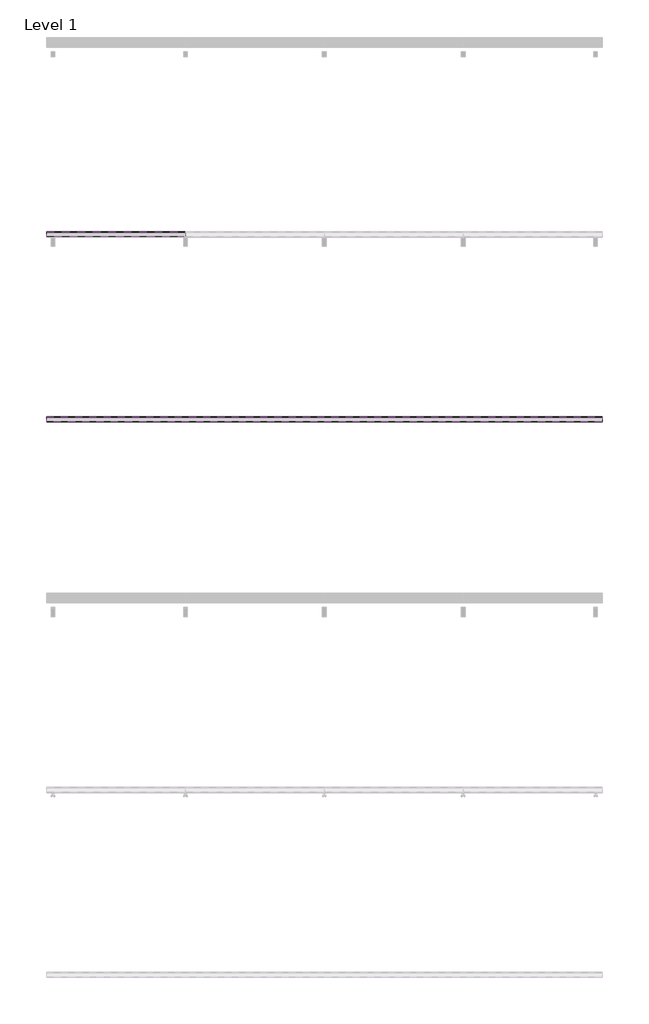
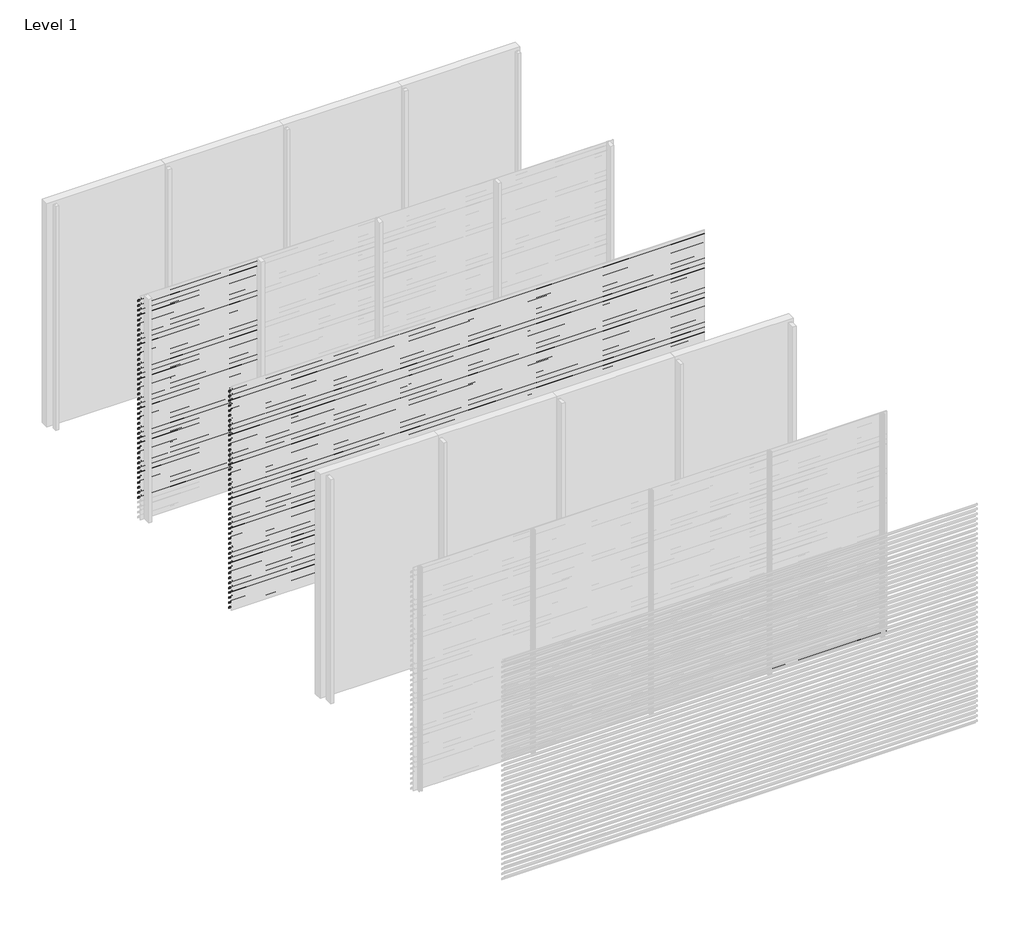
# One storey, part 8 of 25: 87 proxies.
"""IFC4 building model written with IfcOpenShell, lengths in millimetres."""

from ifc_helpers import new_model, si_unit, frame, origin, place, context, project, spatial, polyline, outline, extrude, element, save

model = new_model("IFC4")

# Units and contexts
model_context = context("Model", 3, world=origin())
ifc_project = project(units=[si_unit("LENGTHUNIT", "METRE", prefix="MILLI")], contexts=[model_context])

# Site, building, storey
site = spatial("IfcSite", under=ifc_project)
building = spatial("IfcBuilding", under=site)
storey = spatial("IfcBuildingStorey", under=building, Name="Level 1", Elevation=0.0)

# Proxies
placement = place(None, origin())
element("IfcBuildingElementProxy", 1, Name="Wall Sweeps", at=placement, inside=storey, context=model_context, shape_type="SweptSolid", body=[
    extrude(outline(polyline([(-35943.0, 2913.5), (-35943.0, 2893.5), (-35944.25, 2894.2216933), (-35944.25, 2912.7872415), (-35998.0, 2950.3158044), (-35998.0, 2970.0), (-35996.75, 2970.0), (-35996.75, 2951.0285629), (-35943.0, 2913.5)])), frame((0.0, 0.0, 0.0), z_axis=(1.0, 0.0, 0.0), x_axis=(0.0, 1.0, 0.0)), (0.0, 0.0, 1.0), 1500.0),
])
element("IfcBuildingElementProxy", 2, Name="Wall Sweeps", at=placement, inside=storey, context=model_context, shape_type="SweptSolid", body=[
    extrude(outline(polyline([(-35943.0, 2847.5), (-35943.0, 2827.5), (-35944.25, 2828.2216933), (-35944.25, 2846.7872415), (-35998.0, 2884.3158044), (-35998.0, 2904.0), (-35996.75, 2904.0), (-35996.75, 2885.0285629), (-35943.0, 2847.5)])), frame((0.0, 0.0, 0.0), z_axis=(1.0, 0.0, 0.0), x_axis=(0.0, 1.0, 0.0)), (0.0, 0.0, 1.0), 1500.0),
])
element("IfcBuildingElementProxy", 3, Name="Wall Sweeps", at=placement, inside=storey, context=model_context, shape_type="SweptSolid", body=[
    extrude(outline(polyline([(-35943.0, 2781.5), (-35943.0, 2761.5), (-35944.25, 2762.2216933), (-35944.25, 2780.7872415), (-35998.0, 2818.3158044), (-35998.0, 2838.0), (-35996.75, 2838.0), (-35996.75, 2819.0285629), (-35943.0, 2781.5)])), frame((0.0, 0.0, 0.0), z_axis=(1.0, 0.0, 0.0), x_axis=(0.0, 1.0, 0.0)), (0.0, 0.0, 1.0), 1500.0),
])
element("IfcBuildingElementProxy", 4, Name="Wall Sweeps", at=placement, inside=storey, context=model_context, shape_type="SweptSolid", body=[
    extrude(outline(polyline([(-35943.0, 2715.5), (-35943.0, 2695.5), (-35944.25, 2696.2216933), (-35944.25, 2714.7872415), (-35998.0, 2752.3158044), (-35998.0, 2772.0), (-35996.75, 2772.0), (-35996.75, 2753.0285629), (-35943.0, 2715.5)])), frame((0.0, 0.0, 0.0), z_axis=(1.0, 0.0, 0.0), x_axis=(0.0, 1.0, 0.0)), (0.0, 0.0, 1.0), 1500.0),
])
element("IfcBuildingElementProxy", 5, Name="Wall Sweeps", at=placement, inside=storey, context=model_context, shape_type="SweptSolid", body=[
    extrude(outline(polyline([(-35943.0, 2649.5), (-35943.0, 2629.5), (-35944.25, 2630.2216933), (-35944.25, 2648.7872415), (-35998.0, 2686.3158044), (-35998.0, 2706.0), (-35996.75, 2706.0), (-35996.75, 2687.0285629), (-35943.0, 2649.5)])), frame((0.0, 0.0, 0.0), z_axis=(1.0, 0.0, 0.0), x_axis=(0.0, 1.0, 0.0)), (0.0, 0.0, 1.0), 1500.0),
])
element("IfcBuildingElementProxy", 6, Name="Wall Sweeps", at=placement, inside=storey, context=model_context, shape_type="SweptSolid", body=[
    extrude(outline(polyline([(-35943.0, 2583.5), (-35943.0, 2563.5), (-35944.25, 2564.2216933), (-35944.25, 2582.7872415), (-35998.0, 2620.3158044), (-35998.0, 2640.0), (-35996.75, 2640.0), (-35996.75, 2621.0285629), (-35943.0, 2583.5)])), frame((0.0, 0.0, 0.0), z_axis=(1.0, 0.0, 0.0), x_axis=(0.0, 1.0, 0.0)), (0.0, 0.0, 1.0), 1500.0),
])
element("IfcBuildingElementProxy", 7, Name="Wall Sweeps", at=placement, inside=storey, context=model_context, shape_type="SweptSolid", body=[
    extrude(outline(polyline([(-35943.0, 2517.5), (-35943.0, 2497.5), (-35944.25, 2498.2216933), (-35944.25, 2516.7872415), (-35998.0, 2554.3158044), (-35998.0, 2574.0), (-35996.75, 2574.0), (-35996.75, 2555.0285629), (-35943.0, 2517.5)])), frame((0.0, 0.0, 0.0), z_axis=(1.0, 0.0, 0.0), x_axis=(0.0, 1.0, 0.0)), (0.0, 0.0, 1.0), 1500.0),
])
element("IfcBuildingElementProxy", 8, Name="Wall Sweeps", at=placement, inside=storey, context=model_context, shape_type="SweptSolid", body=[
    extrude(outline(polyline([(-35943.0, 2451.5), (-35943.0, 2431.5), (-35944.25, 2432.2216933), (-35944.25, 2450.7872415), (-35998.0, 2488.3158044), (-35998.0, 2508.0), (-35996.75, 2508.0), (-35996.75, 2489.0285629), (-35943.0, 2451.5)])), frame((0.0, 0.0, 0.0), z_axis=(1.0, 0.0, 0.0), x_axis=(0.0, 1.0, 0.0)), (0.0, 0.0, 1.0), 1500.0),
])
element("IfcBuildingElementProxy", 9, Name="Wall Sweeps", at=placement, inside=storey, context=model_context, shape_type="SweptSolid", body=[
    extrude(outline(polyline([(-35943.0, 2385.5), (-35943.0, 2365.5), (-35944.25, 2366.2216933), (-35944.25, 2384.7872415), (-35998.0, 2422.3158044), (-35998.0, 2442.0), (-35996.75, 2442.0), (-35996.75, 2423.0285629), (-35943.0, 2385.5)])), frame((0.0, 0.0, 0.0), z_axis=(1.0, 0.0, 0.0), x_axis=(0.0, 1.0, 0.0)), (0.0, 0.0, 1.0), 1500.0),
])
element("IfcBuildingElementProxy", 10, Name="Wall Sweeps", at=placement, inside=storey, context=model_context, shape_type="SweptSolid", body=[
    extrude(outline(polyline([(-35943.0, 2319.5), (-35943.0, 2299.5), (-35944.25, 2300.2216933), (-35944.25, 2318.7872415), (-35998.0, 2356.3158044), (-35998.0, 2376.0), (-35996.75, 2376.0), (-35996.75, 2357.0285629), (-35943.0, 2319.5)])), frame((0.0, 0.0, 0.0), z_axis=(1.0, 0.0, 0.0), x_axis=(0.0, 1.0, 0.0)), (0.0, 0.0, 1.0), 1500.0),
])
element("IfcBuildingElementProxy", 11, Name="Wall Sweeps", at=placement, inside=storey, context=model_context, shape_type="SweptSolid", body=[
    extrude(outline(polyline([(-35943.0, 2253.5), (-35943.0, 2233.5), (-35944.25, 2234.2216933), (-35944.25, 2252.7872415), (-35998.0, 2290.3158044), (-35998.0, 2310.0), (-35996.75, 2310.0), (-35996.75, 2291.0285629), (-35943.0, 2253.5)])), frame((0.0, 0.0, 0.0), z_axis=(1.0, 0.0, 0.0), x_axis=(0.0, 1.0, 0.0)), (0.0, 0.0, 1.0), 1500.0),
])
element("IfcBuildingElementProxy", 12, Name="Wall Sweeps", at=placement, inside=storey, context=model_context, shape_type="SweptSolid", body=[
    extrude(outline(polyline([(-35943.0, 2187.5), (-35943.0, 2167.5), (-35944.25, 2168.2216933), (-35944.25, 2186.7872415), (-35998.0, 2224.3158044), (-35998.0, 2244.0), (-35996.75, 2244.0), (-35996.75, 2225.0285629), (-35943.0, 2187.5)])), frame((0.0, 0.0, 0.0), z_axis=(1.0, 0.0, 0.0), x_axis=(0.0, 1.0, 0.0)), (0.0, 0.0, 1.0), 1500.0),
])
element("IfcBuildingElementProxy", 13, Name="Wall Sweeps", at=placement, inside=storey, context=model_context, shape_type="SweptSolid", body=[
    extrude(outline(polyline([(-35943.0, 2121.5), (-35943.0, 2101.5), (-35944.25, 2102.2216933), (-35944.25, 2120.7872415), (-35998.0, 2158.3158044), (-35998.0, 2178.0), (-35996.75, 2178.0), (-35996.75, 2159.0285629), (-35943.0, 2121.5)])), frame((0.0, 0.0, 0.0), z_axis=(1.0, 0.0, 0.0), x_axis=(0.0, 1.0, 0.0)), (0.0, 0.0, 1.0), 1500.0),
])
element("IfcBuildingElementProxy", 14, Name="Wall Sweeps", at=placement, inside=storey, context=model_context, shape_type="SweptSolid", body=[
    extrude(outline(polyline([(-35943.0, 2055.5), (-35943.0, 2035.5), (-35944.25, 2036.2216933), (-35944.25, 2054.7872415), (-35998.0, 2092.3158044), (-35998.0, 2112.0), (-35996.75, 2112.0), (-35996.75, 2093.0285629), (-35943.0, 2055.5)])), frame((0.0, 0.0, 0.0), z_axis=(1.0, 0.0, 0.0), x_axis=(0.0, 1.0, 0.0)), (0.0, 0.0, 1.0), 1500.0),
])
element("IfcBuildingElementProxy", 15, Name="Wall Sweeps", at=placement, inside=storey, context=model_context, shape_type="SweptSolid", body=[
    extrude(outline(polyline([(-35943.0, 1989.5), (-35943.0, 1969.5), (-35944.25, 1970.2216933), (-35944.25, 1988.7872415), (-35998.0, 2026.3158044), (-35998.0, 2046.0), (-35996.75, 2046.0), (-35996.75, 2027.0285629), (-35943.0, 1989.5)])), frame((0.0, 0.0, 0.0), z_axis=(1.0, 0.0, 0.0), x_axis=(0.0, 1.0, 0.0)), (0.0, 0.0, 1.0), 1500.0),
])
element("IfcBuildingElementProxy", 16, Name="Wall Sweeps", at=placement, inside=storey, context=model_context, shape_type="SweptSolid", body=[
    extrude(outline(polyline([(-35943.0, 1923.5), (-35943.0, 1903.5), (-35944.25, 1904.2216933), (-35944.25, 1922.7872415), (-35998.0, 1960.3158044), (-35998.0, 1980.0), (-35996.75, 1980.0), (-35996.75, 1961.0285629), (-35943.0, 1923.5)])), frame((0.0, 0.0, 0.0), z_axis=(1.0, 0.0, 0.0), x_axis=(0.0, 1.0, 0.0)), (0.0, 0.0, 1.0), 1500.0),
])
element("IfcBuildingElementProxy", 17, Name="Wall Sweeps", at=placement, inside=storey, context=model_context, shape_type="SweptSolid", body=[
    extrude(outline(polyline([(-35943.0, 1857.5), (-35943.0, 1837.5), (-35944.25, 1838.2216933), (-35944.25, 1856.7872415), (-35998.0, 1894.3158044), (-35998.0, 1914.0), (-35996.75, 1914.0), (-35996.75, 1895.0285629), (-35943.0, 1857.5)])), frame((0.0, 0.0, 0.0), z_axis=(1.0, 0.0, 0.0), x_axis=(0.0, 1.0, 0.0)), (0.0, 0.0, 1.0), 1500.0),
])
element("IfcBuildingElementProxy", 18, Name="Wall Sweeps", at=placement, inside=storey, context=model_context, shape_type="SweptSolid", body=[
    extrude(outline(polyline([(-35943.0, 1791.5), (-35943.0, 1771.5), (-35944.25, 1772.2216933), (-35944.25, 1790.7872415), (-35998.0, 1828.3158044), (-35998.0, 1848.0), (-35996.75, 1848.0), (-35996.75, 1829.0285629), (-35943.0, 1791.5)])), frame((0.0, 0.0, 0.0), z_axis=(1.0, 0.0, 0.0), x_axis=(0.0, 1.0, 0.0)), (0.0, 0.0, 1.0), 1500.0),
])
element("IfcBuildingElementProxy", 19, Name="Wall Sweeps", at=placement, inside=storey, context=model_context, shape_type="SweptSolid", body=[
    extrude(outline(polyline([(-35943.0, 1725.5), (-35943.0, 1705.5), (-35944.25, 1706.2216933), (-35944.25, 1724.7872415), (-35998.0, 1762.3158044), (-35998.0, 1782.0), (-35996.75, 1782.0), (-35996.75, 1763.0285629), (-35943.0, 1725.5)])), frame((0.0, 0.0, 0.0), z_axis=(1.0, 0.0, 0.0), x_axis=(0.0, 1.0, 0.0)), (0.0, 0.0, 1.0), 1500.0),
])
element("IfcBuildingElementProxy", 20, Name="Wall Sweeps", at=placement, inside=storey, context=model_context, shape_type="SweptSolid", body=[
    extrude(outline(polyline([(-35943.0, 1659.5), (-35943.0, 1639.5), (-35944.25, 1640.2216933), (-35944.25, 1658.7872415), (-35998.0, 1696.3158044), (-35998.0, 1716.0), (-35996.75, 1716.0), (-35996.75, 1697.0285629), (-35943.0, 1659.5)])), frame((0.0, 0.0, 0.0), z_axis=(1.0, 0.0, 0.0), x_axis=(0.0, 1.0, 0.0)), (0.0, 0.0, 1.0), 1500.0),
])
element("IfcBuildingElementProxy", 21, Name="Wall Sweeps", at=placement, inside=storey, context=model_context, shape_type="SweptSolid", body=[
    extrude(outline(polyline([(-35943.0, 1593.5), (-35943.0, 1573.5), (-35944.25, 1574.2216933), (-35944.25, 1592.7872415), (-35998.0, 1630.3158044), (-35998.0, 1650.0), (-35996.75, 1650.0), (-35996.75, 1631.0285629), (-35943.0, 1593.5)])), frame((0.0, 0.0, 0.0), z_axis=(1.0, 0.0, 0.0), x_axis=(0.0, 1.0, 0.0)), (0.0, 0.0, 1.0), 1500.0),
])
element("IfcBuildingElementProxy", 22, Name="Wall Sweeps", at=placement, inside=storey, context=model_context, shape_type="SweptSolid", body=[
    extrude(outline(polyline([(-35943.0, 1527.5), (-35943.0, 1507.5), (-35944.25, 1508.2216933), (-35944.25, 1526.7872415), (-35998.0, 1564.3158044), (-35998.0, 1584.0), (-35996.75, 1584.0), (-35996.75, 1565.0285629), (-35943.0, 1527.5)])), frame((0.0, 0.0, 0.0), z_axis=(1.0, 0.0, 0.0), x_axis=(0.0, 1.0, 0.0)), (0.0, 0.0, 1.0), 1500.0),
])
element("IfcBuildingElementProxy", 23, Name="Wall Sweeps", at=placement, inside=storey, context=model_context, shape_type="SweptSolid", body=[
    extrude(outline(polyline([(-35943.0, 1461.5), (-35943.0, 1441.5), (-35944.25, 1442.2216933), (-35944.25, 1460.7872415), (-35998.0, 1498.3158044), (-35998.0, 1518.0), (-35996.75, 1518.0), (-35996.75, 1499.0285629), (-35943.0, 1461.5)])), frame((0.0, 0.0, 0.0), z_axis=(1.0, 0.0, 0.0), x_axis=(0.0, 1.0, 0.0)), (0.0, 0.0, 1.0), 1500.0),
])
element("IfcBuildingElementProxy", 24, Name="Wall Sweeps", at=placement, inside=storey, context=model_context, shape_type="SweptSolid", body=[
    extrude(outline(polyline([(-35943.0, 1395.5), (-35943.0, 1375.5), (-35944.25, 1376.2216933), (-35944.25, 1394.7872415), (-35998.0, 1432.3158044), (-35998.0, 1452.0), (-35996.75, 1452.0), (-35996.75, 1433.0285629), (-35943.0, 1395.5)])), frame((0.0, 0.0, 0.0), z_axis=(1.0, 0.0, 0.0), x_axis=(0.0, 1.0, 0.0)), (0.0, 0.0, 1.0), 1500.0),
])
element("IfcBuildingElementProxy", 25, Name="Wall Sweeps", at=placement, inside=storey, context=model_context, shape_type="SweptSolid", body=[
    extrude(outline(polyline([(-35943.0, 1329.5), (-35943.0, 1309.5), (-35944.25, 1310.2216933), (-35944.25, 1328.7872415), (-35998.0, 1366.3158044), (-35998.0, 1386.0), (-35996.75, 1386.0), (-35996.75, 1367.0285629), (-35943.0, 1329.5)])), frame((0.0, 0.0, 0.0), z_axis=(1.0, 0.0, 0.0), x_axis=(0.0, 1.0, 0.0)), (0.0, 0.0, 1.0), 1500.0),
])
element("IfcBuildingElementProxy", 26, Name="Wall Sweeps", at=placement, inside=storey, context=model_context, shape_type="SweptSolid", body=[
    extrude(outline(polyline([(-35943.0, 1263.5), (-35943.0, 1243.5), (-35944.25, 1244.2216933), (-35944.25, 1262.7872415), (-35998.0, 1300.3158044), (-35998.0, 1320.0), (-35996.75, 1320.0), (-35996.75, 1301.0285629), (-35943.0, 1263.5)])), frame((0.0, 0.0, 0.0), z_axis=(1.0, 0.0, 0.0), x_axis=(0.0, 1.0, 0.0)), (0.0, 0.0, 1.0), 1500.0),
])
element("IfcBuildingElementProxy", 27, Name="Wall Sweeps", at=placement, inside=storey, context=model_context, shape_type="SweptSolid", body=[
    extrude(outline(polyline([(-35943.0, 1197.5), (-35943.0, 1177.5), (-35944.25, 1178.2216933), (-35944.25, 1196.7872415), (-35998.0, 1234.3158044), (-35998.0, 1254.0), (-35996.75, 1254.0), (-35996.75, 1235.0285629), (-35943.0, 1197.5)])), frame((0.0, 0.0, 0.0), z_axis=(1.0, 0.0, 0.0), x_axis=(0.0, 1.0, 0.0)), (0.0, 0.0, 1.0), 1500.0),
])
element("IfcBuildingElementProxy", 28, Name="Wall Sweeps", at=placement, inside=storey, context=model_context, shape_type="SweptSolid", body=[
    extrude(outline(polyline([(-35943.0, 1131.5), (-35943.0, 1111.5), (-35944.25, 1112.2216933), (-35944.25, 1130.7872415), (-35998.0, 1168.3158044), (-35998.0, 1188.0), (-35996.75, 1188.0), (-35996.75, 1169.0285629), (-35943.0, 1131.5)])), frame((0.0, 0.0, 0.0), z_axis=(1.0, 0.0, 0.0), x_axis=(0.0, 1.0, 0.0)), (0.0, 0.0, 1.0), 1500.0),
])
element("IfcBuildingElementProxy", 29, Name="Wall Sweeps", at=placement, inside=storey, context=model_context, shape_type="SweptSolid", body=[
    extrude(outline(polyline([(-35943.0, 1065.5), (-35943.0, 1045.5), (-35944.25, 1046.2216933), (-35944.25, 1064.7872415), (-35998.0, 1102.3158044), (-35998.0, 1122.0), (-35996.75, 1122.0), (-35996.75, 1103.0285629), (-35943.0, 1065.5)])), frame((0.0, 0.0, 0.0), z_axis=(1.0, 0.0, 0.0), x_axis=(0.0, 1.0, 0.0)), (0.0, 0.0, 1.0), 1500.0),
])
element("IfcBuildingElementProxy", 30, Name="Wall Sweeps", at=placement, inside=storey, context=model_context, shape_type="SweptSolid", body=[
    extrude(outline(polyline([(-35943.0, 999.5), (-35943.0, 979.5), (-35944.25, 980.2216933), (-35944.25, 998.7872415), (-35998.0, 1036.3158044), (-35998.0, 1056.0), (-35996.75, 1056.0), (-35996.75, 1037.0285629), (-35943.0, 999.5)])), frame((0.0, 0.0, 0.0), z_axis=(1.0, 0.0, 0.0), x_axis=(0.0, 1.0, 0.0)), (0.0, 0.0, 1.0), 1500.0),
])
element("IfcBuildingElementProxy", 31, Name="Wall Sweeps", at=placement, inside=storey, context=model_context, shape_type="SweptSolid", body=[
    extrude(outline(polyline([(-35943.0, 933.5), (-35943.0, 913.5), (-35944.25, 914.2216933), (-35944.25, 932.7872415), (-35998.0, 970.3158044), (-35998.0, 990.0), (-35996.75, 990.0), (-35996.75, 971.0285629), (-35943.0, 933.5)])), frame((0.0, 0.0, 0.0), z_axis=(1.0, 0.0, 0.0), x_axis=(0.0, 1.0, 0.0)), (0.0, 0.0, 1.0), 1500.0),
])
element("IfcBuildingElementProxy", 32, Name="Wall Sweeps", at=placement, inside=storey, context=model_context, shape_type="SweptSolid", body=[
    extrude(outline(polyline([(-35943.0, 867.5), (-35943.0, 847.5), (-35944.25, 848.2216933), (-35944.25, 866.7872415), (-35998.0, 904.3158044), (-35998.0, 924.0), (-35996.75, 924.0), (-35996.75, 905.0285629), (-35943.0, 867.5)])), frame((0.0, 0.0, 0.0), z_axis=(1.0, 0.0, 0.0), x_axis=(0.0, 1.0, 0.0)), (0.0, 0.0, 1.0), 1500.0),
])
element("IfcBuildingElementProxy", 33, Name="Wall Sweeps", at=placement, inside=storey, context=model_context, shape_type="SweptSolid", body=[
    extrude(outline(polyline([(-35943.0, 801.5), (-35943.0, 781.5), (-35944.25, 782.2216933), (-35944.25, 800.7872415), (-35998.0, 838.3158044), (-35998.0, 858.0), (-35996.75, 858.0), (-35996.75, 839.0285629), (-35943.0, 801.5)])), frame((0.0, 0.0, 0.0), z_axis=(1.0, 0.0, 0.0), x_axis=(0.0, 1.0, 0.0)), (0.0, 0.0, 1.0), 1500.0),
])
element("IfcBuildingElementProxy", 34, Name="Wall Sweeps", at=placement, inside=storey, context=model_context, shape_type="SweptSolid", body=[
    extrude(outline(polyline([(-35943.0, 735.5), (-35943.0, 715.5), (-35944.25, 716.2216933), (-35944.25, 734.7872415), (-35998.0, 772.3158044), (-35998.0, 792.0), (-35996.75, 792.0), (-35996.75, 773.0285629), (-35943.0, 735.5)])), frame((0.0, 0.0, 0.0), z_axis=(1.0, 0.0, 0.0), x_axis=(0.0, 1.0, 0.0)), (0.0, 0.0, 1.0), 1500.0),
])
element("IfcBuildingElementProxy", 35, Name="Wall Sweeps", at=placement, inside=storey, context=model_context, shape_type="SweptSolid", body=[
    extrude(outline(polyline([(-35943.0, 669.5), (-35943.0, 649.5), (-35944.25, 650.2216933), (-35944.25, 668.7872415), (-35998.0, 706.3158044), (-35998.0, 726.0), (-35996.75, 726.0), (-35996.75, 707.0285629), (-35943.0, 669.5)])), frame((0.0, 0.0, 0.0), z_axis=(1.0, 0.0, 0.0), x_axis=(0.0, 1.0, 0.0)), (0.0, 0.0, 1.0), 1500.0),
])
element("IfcBuildingElementProxy", 36, Name="Wall Sweeps", at=placement, inside=storey, context=model_context, shape_type="SweptSolid", body=[
    extrude(outline(polyline([(-35943.0, 603.5), (-35943.0, 583.5), (-35944.25, 584.2216933), (-35944.25, 602.7872415), (-35998.0, 640.3158044), (-35998.0, 660.0), (-35996.75, 660.0), (-35996.75, 641.0285629), (-35943.0, 603.5)])), frame((0.0, 0.0, 0.0), z_axis=(1.0, 0.0, 0.0), x_axis=(0.0, 1.0, 0.0)), (0.0, 0.0, 1.0), 1500.0),
])
element("IfcBuildingElementProxy", 37, Name="Wall Sweeps", at=placement, inside=storey, context=model_context, shape_type="SweptSolid", body=[
    extrude(outline(polyline([(-35943.0, 537.5), (-35943.0, 517.5), (-35944.25, 518.2216933), (-35944.25, 536.7872415), (-35998.0, 574.3158044), (-35998.0, 594.0), (-35996.75, 594.0), (-35996.75, 575.0285629), (-35943.0, 537.5)])), frame((0.0, 0.0, 0.0), z_axis=(1.0, 0.0, 0.0), x_axis=(0.0, 1.0, 0.0)), (0.0, 0.0, 1.0), 1500.0),
])
element("IfcBuildingElementProxy", 38, Name="Wall Sweeps", at=placement, inside=storey, context=model_context, shape_type="SweptSolid", body=[
    extrude(outline(polyline([(-35943.0, 471.5), (-35943.0, 451.5), (-35944.25, 452.2216933), (-35944.25, 470.7872415), (-35998.0, 508.3158044), (-35998.0, 528.0), (-35996.75, 528.0), (-35996.75, 509.0285629), (-35943.0, 471.5)])), frame((0.0, 0.0, 0.0), z_axis=(1.0, 0.0, 0.0), x_axis=(0.0, 1.0, 0.0)), (0.0, 0.0, 1.0), 1500.0),
])
element("IfcBuildingElementProxy", 39, Name="Wall Sweeps", at=placement, inside=storey, context=model_context, shape_type="SweptSolid", body=[
    extrude(outline(polyline([(-35943.0, 405.5), (-35943.0, 385.5), (-35944.25, 386.2216933), (-35944.25, 404.7872415), (-35998.0, 442.3158044), (-35998.0, 462.0), (-35996.75, 462.0), (-35996.75, 443.0285629), (-35943.0, 405.5)])), frame((0.0, 0.0, 0.0), z_axis=(1.0, 0.0, 0.0), x_axis=(0.0, 1.0, 0.0)), (0.0, 0.0, 1.0), 1500.0),
])
element("IfcBuildingElementProxy", 40, Name="Wall Sweeps", at=placement, inside=storey, context=model_context, shape_type="SweptSolid", body=[
    extrude(outline(polyline([(-35943.0, 339.5), (-35943.0, 319.5), (-35944.25, 320.2216933), (-35944.25, 338.7872415), (-35998.0, 376.3158044), (-35998.0, 396.0), (-35996.75, 396.0), (-35996.75, 377.0285629), (-35943.0, 339.5)])), frame((0.0, 0.0, 0.0), z_axis=(1.0, 0.0, 0.0), x_axis=(0.0, 1.0, 0.0)), (0.0, 0.0, 1.0), 1500.0),
])
element("IfcBuildingElementProxy", 41, Name="Wall Sweeps", at=placement, inside=storey, context=model_context, shape_type="SweptSolid", body=[
    extrude(outline(polyline([(-35943.0, 273.5), (-35943.0, 253.5), (-35944.25, 254.2216933), (-35944.25, 272.7872415), (-35998.0, 310.3158044), (-35998.0, 330.0), (-35996.75, 330.0), (-35996.75, 311.0285629), (-35943.0, 273.5)])), frame((0.0, 0.0, 0.0), z_axis=(1.0, 0.0, 0.0), x_axis=(0.0, 1.0, 0.0)), (0.0, 0.0, 1.0), 1500.0),
])
element("IfcBuildingElementProxy", 42, Name="Wall Sweeps", at=placement, inside=storey, context=model_context, shape_type="SweptSolid", body=[
    extrude(outline(polyline([(-37943.0, 2913.5), (-37943.0, 2893.5), (-37944.25, 2894.2216933), (-37944.25, 2912.7872415), (-37998.0, 2950.3158044), (-37998.0, 2970.0), (-37996.75, 2970.0), (-37996.75, 2951.0285629), (-37943.0, 2913.5)])), frame((0.0, 0.0, 0.0), z_axis=(1.0, 0.0, 0.0), x_axis=(0.0, 1.0, 0.0)), (0.0, 0.0, 1.0), 6000.0),
])
element("IfcBuildingElementProxy", 43, Name="Wall Sweeps", at=placement, inside=storey, context=model_context, shape_type="SweptSolid", body=[
    extrude(outline(polyline([(-37943.0, 2847.5), (-37943.0, 2827.5), (-37944.25, 2828.2216933), (-37944.25, 2846.7872415), (-37998.0, 2884.3158044), (-37998.0, 2904.0), (-37996.75, 2904.0), (-37996.75, 2885.0285629), (-37943.0, 2847.5)])), frame((0.0, 0.0, 0.0), z_axis=(1.0, 0.0, 0.0), x_axis=(0.0, 1.0, 0.0)), (0.0, 0.0, 1.0), 6000.0),
])
element("IfcBuildingElementProxy", 44, Name="Wall Sweeps", at=placement, inside=storey, context=model_context, shape_type="SweptSolid", body=[
    extrude(outline(polyline([(-37943.0, 2781.5), (-37943.0, 2761.5), (-37944.25, 2762.2216933), (-37944.25, 2780.7872415), (-37998.0, 2818.3158044), (-37998.0, 2838.0), (-37996.75, 2838.0), (-37996.75, 2819.0285629), (-37943.0, 2781.5)])), frame((0.0, 0.0, 0.0), z_axis=(1.0, 0.0, 0.0), x_axis=(0.0, 1.0, 0.0)), (0.0, 0.0, 1.0), 6000.0),
])
element("IfcBuildingElementProxy", 45, Name="Wall Sweeps", at=placement, inside=storey, context=model_context, shape_type="SweptSolid", body=[
    extrude(outline(polyline([(-37943.0, 2715.5), (-37943.0, 2695.5), (-37944.25, 2696.2216933), (-37944.25, 2714.7872415), (-37998.0, 2752.3158044), (-37998.0, 2772.0), (-37996.75, 2772.0), (-37996.75, 2753.0285629), (-37943.0, 2715.5)])), frame((0.0, 0.0, 0.0), z_axis=(1.0, 0.0, 0.0), x_axis=(0.0, 1.0, 0.0)), (0.0, 0.0, 1.0), 6000.0),
])
element("IfcBuildingElementProxy", 46, Name="Wall Sweeps", at=placement, inside=storey, context=model_context, shape_type="SweptSolid", body=[
    extrude(outline(polyline([(-37943.0, 2649.5), (-37943.0, 2629.5), (-37944.25, 2630.2216933), (-37944.25, 2648.7872415), (-37998.0, 2686.3158044), (-37998.0, 2706.0), (-37996.75, 2706.0), (-37996.75, 2687.0285629), (-37943.0, 2649.5)])), frame((0.0, 0.0, 0.0), z_axis=(1.0, 0.0, 0.0), x_axis=(0.0, 1.0, 0.0)), (0.0, 0.0, 1.0), 6000.0),
])
element("IfcBuildingElementProxy", 47, Name="Wall Sweeps", at=placement, inside=storey, context=model_context, shape_type="SweptSolid", body=[
    extrude(outline(polyline([(-37943.0, 2583.5), (-37943.0, 2563.5), (-37944.25, 2564.2216933), (-37944.25, 2582.7872415), (-37998.0, 2620.3158044), (-37998.0, 2640.0), (-37996.75, 2640.0), (-37996.75, 2621.0285629), (-37943.0, 2583.5)])), frame((0.0, 0.0, 0.0), z_axis=(1.0, 0.0, 0.0), x_axis=(0.0, 1.0, 0.0)), (0.0, 0.0, 1.0), 6000.0),
])
element("IfcBuildingElementProxy", 48, Name="Wall Sweeps", at=placement, inside=storey, context=model_context, shape_type="SweptSolid", body=[
    extrude(outline(polyline([(-37943.0, 2517.5), (-37943.0, 2497.5), (-37944.25, 2498.2216933), (-37944.25, 2516.7872415), (-37998.0, 2554.3158044), (-37998.0, 2574.0), (-37996.75, 2574.0), (-37996.75, 2555.0285629), (-37943.0, 2517.5)])), frame((0.0, 0.0, 0.0), z_axis=(1.0, 0.0, 0.0), x_axis=(0.0, 1.0, 0.0)), (0.0, 0.0, 1.0), 6000.0),
])
element("IfcBuildingElementProxy", 49, Name="Wall Sweeps", at=placement, inside=storey, context=model_context, shape_type="SweptSolid", body=[
    extrude(outline(polyline([(-37943.0, 2451.5), (-37943.0, 2431.5), (-37944.25, 2432.2216933), (-37944.25, 2450.7872415), (-37998.0, 2488.3158044), (-37998.0, 2508.0), (-37996.75, 2508.0), (-37996.75, 2489.0285629), (-37943.0, 2451.5)])), frame((0.0, 0.0, 0.0), z_axis=(1.0, 0.0, 0.0), x_axis=(0.0, 1.0, 0.0)), (0.0, 0.0, 1.0), 6000.0),
])
element("IfcBuildingElementProxy", 50, Name="Wall Sweeps", at=placement, inside=storey, context=model_context, shape_type="SweptSolid", body=[
    extrude(outline(polyline([(-37943.0, 2385.5), (-37943.0, 2365.5), (-37944.25, 2366.2216933), (-37944.25, 2384.7872415), (-37998.0, 2422.3158044), (-37998.0, 2442.0), (-37996.75, 2442.0), (-37996.75, 2423.0285629), (-37943.0, 2385.5)])), frame((0.0, 0.0, 0.0), z_axis=(1.0, 0.0, 0.0), x_axis=(0.0, 1.0, 0.0)), (0.0, 0.0, 1.0), 6000.0),
])
element("IfcBuildingElementProxy", 51, Name="Wall Sweeps", at=placement, inside=storey, context=model_context, shape_type="SweptSolid", body=[
    extrude(outline(polyline([(-37943.0, 2319.5), (-37943.0, 2299.5), (-37944.25, 2300.2216933), (-37944.25, 2318.7872415), (-37998.0, 2356.3158044), (-37998.0, 2376.0), (-37996.75, 2376.0), (-37996.75, 2357.0285629), (-37943.0, 2319.5)])), frame((0.0, 0.0, 0.0), z_axis=(1.0, 0.0, 0.0), x_axis=(0.0, 1.0, 0.0)), (0.0, 0.0, 1.0), 6000.0),
])
element("IfcBuildingElementProxy", 52, Name="Wall Sweeps", at=placement, inside=storey, context=model_context, shape_type="SweptSolid", body=[
    extrude(outline(polyline([(-37943.0, 2253.5), (-37943.0, 2233.5), (-37944.25, 2234.2216933), (-37944.25, 2252.7872415), (-37998.0, 2290.3158044), (-37998.0, 2310.0), (-37996.75, 2310.0), (-37996.75, 2291.0285629), (-37943.0, 2253.5)])), frame((0.0, 0.0, 0.0), z_axis=(1.0, 0.0, 0.0), x_axis=(0.0, 1.0, 0.0)), (0.0, 0.0, 1.0), 6000.0),
])
element("IfcBuildingElementProxy", 53, Name="Wall Sweeps", at=placement, inside=storey, context=model_context, shape_type="SweptSolid", body=[
    extrude(outline(polyline([(-37943.0, 2187.5), (-37943.0, 2167.5), (-37944.25, 2168.2216933), (-37944.25, 2186.7872415), (-37998.0, 2224.3158044), (-37998.0, 2244.0), (-37996.75, 2244.0), (-37996.75, 2225.0285629), (-37943.0, 2187.5)])), frame((0.0, 0.0, 0.0), z_axis=(1.0, 0.0, 0.0), x_axis=(0.0, 1.0, 0.0)), (0.0, 0.0, 1.0), 6000.0),
])
element("IfcBuildingElementProxy", 54, Name="Wall Sweeps", at=placement, inside=storey, context=model_context, shape_type="SweptSolid", body=[
    extrude(outline(polyline([(-37943.0, 2121.5), (-37943.0, 2101.5), (-37944.25, 2102.2216933), (-37944.25, 2120.7872415), (-37998.0, 2158.3158044), (-37998.0, 2178.0), (-37996.75, 2178.0), (-37996.75, 2159.0285629), (-37943.0, 2121.5)])), frame((0.0, 0.0, 0.0), z_axis=(1.0, 0.0, 0.0), x_axis=(0.0, 1.0, 0.0)), (0.0, 0.0, 1.0), 6000.0),
])
element("IfcBuildingElementProxy", 55, Name="Wall Sweeps", at=placement, inside=storey, context=model_context, shape_type="SweptSolid", body=[
    extrude(outline(polyline([(-37943.0, 2055.5), (-37943.0, 2035.5), (-37944.25, 2036.2216933), (-37944.25, 2054.7872415), (-37998.0, 2092.3158044), (-37998.0, 2112.0), (-37996.75, 2112.0), (-37996.75, 2093.0285629), (-37943.0, 2055.5)])), frame((0.0, 0.0, 0.0), z_axis=(1.0, 0.0, 0.0), x_axis=(0.0, 1.0, 0.0)), (0.0, 0.0, 1.0), 6000.0),
])
element("IfcBuildingElementProxy", 56, Name="Wall Sweeps", at=placement, inside=storey, context=model_context, shape_type="SweptSolid", body=[
    extrude(outline(polyline([(-37943.0, 1989.5), (-37943.0, 1969.5), (-37944.25, 1970.2216933), (-37944.25, 1988.7872415), (-37998.0, 2026.3158044), (-37998.0, 2046.0), (-37996.75, 2046.0), (-37996.75, 2027.0285629), (-37943.0, 1989.5)])), frame((0.0, 0.0, 0.0), z_axis=(1.0, 0.0, 0.0), x_axis=(0.0, 1.0, 0.0)), (0.0, 0.0, 1.0), 6000.0),
])
element("IfcBuildingElementProxy", 57, Name="Wall Sweeps", at=placement, inside=storey, context=model_context, shape_type="SweptSolid", body=[
    extrude(outline(polyline([(-37943.0, 1923.5), (-37943.0, 1903.5), (-37944.25, 1904.2216933), (-37944.25, 1922.7872415), (-37998.0, 1960.3158044), (-37998.0, 1980.0), (-37996.75, 1980.0), (-37996.75, 1961.0285629), (-37943.0, 1923.5)])), frame((0.0, 0.0, 0.0), z_axis=(1.0, 0.0, 0.0), x_axis=(0.0, 1.0, 0.0)), (0.0, 0.0, 1.0), 6000.0),
])
element("IfcBuildingElementProxy", 58, Name="Wall Sweeps", at=placement, inside=storey, context=model_context, shape_type="SweptSolid", body=[
    extrude(outline(polyline([(-37943.0, 1857.5), (-37943.0, 1837.5), (-37944.25, 1838.2216933), (-37944.25, 1856.7872415), (-37998.0, 1894.3158044), (-37998.0, 1914.0), (-37996.75, 1914.0), (-37996.75, 1895.0285629), (-37943.0, 1857.5)])), frame((0.0, 0.0, 0.0), z_axis=(1.0, 0.0, 0.0), x_axis=(0.0, 1.0, 0.0)), (0.0, 0.0, 1.0), 6000.0),
])
element("IfcBuildingElementProxy", 59, Name="Wall Sweeps", at=placement, inside=storey, context=model_context, shape_type="SweptSolid", body=[
    extrude(outline(polyline([(-37943.0, 1791.5), (-37943.0, 1771.5), (-37944.25, 1772.2216933), (-37944.25, 1790.7872415), (-37998.0, 1828.3158044), (-37998.0, 1848.0), (-37996.75, 1848.0), (-37996.75, 1829.0285629), (-37943.0, 1791.5)])), frame((0.0, 0.0, 0.0), z_axis=(1.0, 0.0, 0.0), x_axis=(0.0, 1.0, 0.0)), (0.0, 0.0, 1.0), 6000.0),
])
element("IfcBuildingElementProxy", 60, Name="Wall Sweeps", at=placement, inside=storey, context=model_context, shape_type="SweptSolid", body=[
    extrude(outline(polyline([(-37943.0, 1725.5), (-37943.0, 1705.5), (-37944.25, 1706.2216933), (-37944.25, 1724.7872415), (-37998.0, 1762.3158044), (-37998.0, 1782.0), (-37996.75, 1782.0), (-37996.75, 1763.0285629), (-37943.0, 1725.5)])), frame((0.0, 0.0, 0.0), z_axis=(1.0, 0.0, 0.0), x_axis=(0.0, 1.0, 0.0)), (0.0, 0.0, 1.0), 6000.0),
])
element("IfcBuildingElementProxy", 61, Name="Wall Sweeps", at=placement, inside=storey, context=model_context, shape_type="SweptSolid", body=[
    extrude(outline(polyline([(-37943.0, 1659.5), (-37943.0, 1639.5), (-37944.25, 1640.2216933), (-37944.25, 1658.7872415), (-37998.0, 1696.3158044), (-37998.0, 1716.0), (-37996.75, 1716.0), (-37996.75, 1697.0285629), (-37943.0, 1659.5)])), frame((0.0, 0.0, 0.0), z_axis=(1.0, 0.0, 0.0), x_axis=(0.0, 1.0, 0.0)), (0.0, 0.0, 1.0), 6000.0),
])
element("IfcBuildingElementProxy", 62, Name="Wall Sweeps", at=placement, inside=storey, context=model_context, shape_type="SweptSolid", body=[
    extrude(outline(polyline([(-37943.0, 1593.5), (-37943.0, 1573.5), (-37944.25, 1574.2216933), (-37944.25, 1592.7872415), (-37998.0, 1630.3158044), (-37998.0, 1650.0), (-37996.75, 1650.0), (-37996.75, 1631.0285629), (-37943.0, 1593.5)])), frame((0.0, 0.0, 0.0), z_axis=(1.0, 0.0, 0.0), x_axis=(0.0, 1.0, 0.0)), (0.0, 0.0, 1.0), 6000.0),
])
element("IfcBuildingElementProxy", 63, Name="Wall Sweeps", at=placement, inside=storey, context=model_context, shape_type="SweptSolid", body=[
    extrude(outline(polyline([(-37943.0, 1527.5), (-37943.0, 1507.5), (-37944.25, 1508.2216933), (-37944.25, 1526.7872415), (-37998.0, 1564.3158044), (-37998.0, 1584.0), (-37996.75, 1584.0), (-37996.75, 1565.0285629), (-37943.0, 1527.5)])), frame((0.0, 0.0, 0.0), z_axis=(1.0, 0.0, 0.0), x_axis=(0.0, 1.0, 0.0)), (0.0, 0.0, 1.0), 6000.0),
])
element("IfcBuildingElementProxy", 64, Name="Wall Sweeps", at=placement, inside=storey, context=model_context, shape_type="SweptSolid", body=[
    extrude(outline(polyline([(-37943.0, 1461.5), (-37943.0, 1441.5), (-37944.25, 1442.2216933), (-37944.25, 1460.7872415), (-37998.0, 1498.3158044), (-37998.0, 1518.0), (-37996.75, 1518.0), (-37996.75, 1499.0285629), (-37943.0, 1461.5)])), frame((0.0, 0.0, 0.0), z_axis=(1.0, 0.0, 0.0), x_axis=(0.0, 1.0, 0.0)), (0.0, 0.0, 1.0), 6000.0),
])
element("IfcBuildingElementProxy", 65, Name="Wall Sweeps", at=placement, inside=storey, context=model_context, shape_type="SweptSolid", body=[
    extrude(outline(polyline([(-37943.0, 1395.5), (-37943.0, 1375.5), (-37944.25, 1376.2216933), (-37944.25, 1394.7872415), (-37998.0, 1432.3158044), (-37998.0, 1452.0), (-37996.75, 1452.0), (-37996.75, 1433.0285629), (-37943.0, 1395.5)])), frame((0.0, 0.0, 0.0), z_axis=(1.0, 0.0, 0.0), x_axis=(0.0, 1.0, 0.0)), (0.0, 0.0, 1.0), 6000.0),
])
element("IfcBuildingElementProxy", 66, Name="Wall Sweeps", at=placement, inside=storey, context=model_context, shape_type="SweptSolid", body=[
    extrude(outline(polyline([(-37943.0, 1329.5), (-37943.0, 1309.5), (-37944.25, 1310.2216933), (-37944.25, 1328.7872415), (-37998.0, 1366.3158044), (-37998.0, 1386.0), (-37996.75, 1386.0), (-37996.75, 1367.0285629), (-37943.0, 1329.5)])), frame((0.0, 0.0, 0.0), z_axis=(1.0, 0.0, 0.0), x_axis=(0.0, 1.0, 0.0)), (0.0, 0.0, 1.0), 6000.0),
])
element("IfcBuildingElementProxy", 67, Name="Wall Sweeps", at=placement, inside=storey, context=model_context, shape_type="SweptSolid", body=[
    extrude(outline(polyline([(-37943.0, 1263.5), (-37943.0, 1243.5), (-37944.25, 1244.2216933), (-37944.25, 1262.7872415), (-37998.0, 1300.3158044), (-37998.0, 1320.0), (-37996.75, 1320.0), (-37996.75, 1301.0285629), (-37943.0, 1263.5)])), frame((0.0, 0.0, 0.0), z_axis=(1.0, 0.0, 0.0), x_axis=(0.0, 1.0, 0.0)), (0.0, 0.0, 1.0), 6000.0),
])
element("IfcBuildingElementProxy", 68, Name="Wall Sweeps", at=placement, inside=storey, context=model_context, shape_type="SweptSolid", body=[
    extrude(outline(polyline([(-37943.0, 1197.5), (-37943.0, 1177.5), (-37944.25, 1178.2216933), (-37944.25, 1196.7872415), (-37998.0, 1234.3158044), (-37998.0, 1254.0), (-37996.75, 1254.0), (-37996.75, 1235.0285629), (-37943.0, 1197.5)])), frame((0.0, 0.0, 0.0), z_axis=(1.0, 0.0, 0.0), x_axis=(0.0, 1.0, 0.0)), (0.0, 0.0, 1.0), 6000.0),
])
element("IfcBuildingElementProxy", 69, Name="Wall Sweeps", at=placement, inside=storey, context=model_context, shape_type="SweptSolid", body=[
    extrude(outline(polyline([(-37943.0, 1131.5), (-37943.0, 1111.5), (-37944.25, 1112.2216933), (-37944.25, 1130.7872415), (-37998.0, 1168.3158044), (-37998.0, 1188.0), (-37996.75, 1188.0), (-37996.75, 1169.0285629), (-37943.0, 1131.5)])), frame((0.0, 0.0, 0.0), z_axis=(1.0, 0.0, 0.0), x_axis=(0.0, 1.0, 0.0)), (0.0, 0.0, 1.0), 6000.0),
])
element("IfcBuildingElementProxy", 70, Name="Wall Sweeps", at=placement, inside=storey, context=model_context, shape_type="SweptSolid", body=[
    extrude(outline(polyline([(-37943.0, 1065.5), (-37943.0, 1045.5), (-37944.25, 1046.2216933), (-37944.25, 1064.7872415), (-37998.0, 1102.3158044), (-37998.0, 1122.0), (-37996.75, 1122.0), (-37996.75, 1103.0285629), (-37943.0, 1065.5)])), frame((0.0, 0.0, 0.0), z_axis=(1.0, 0.0, 0.0), x_axis=(0.0, 1.0, 0.0)), (0.0, 0.0, 1.0), 6000.0),
])
element("IfcBuildingElementProxy", 71, Name="Wall Sweeps", at=placement, inside=storey, context=model_context, shape_type="SweptSolid", body=[
    extrude(outline(polyline([(-37943.0, 999.5), (-37943.0, 979.5), (-37944.25, 980.2216933), (-37944.25, 998.7872415), (-37998.0, 1036.3158044), (-37998.0, 1056.0), (-37996.75, 1056.0), (-37996.75, 1037.0285629), (-37943.0, 999.5)])), frame((0.0, 0.0, 0.0), z_axis=(1.0, 0.0, 0.0), x_axis=(0.0, 1.0, 0.0)), (0.0, 0.0, 1.0), 6000.0),
])
element("IfcBuildingElementProxy", 72, Name="Wall Sweeps", at=placement, inside=storey, context=model_context, shape_type="SweptSolid", body=[
    extrude(outline(polyline([(-37943.0, 933.5), (-37943.0, 913.5), (-37944.25, 914.2216933), (-37944.25, 932.7872415), (-37998.0, 970.3158044), (-37998.0, 990.0), (-37996.75, 990.0), (-37996.75, 971.0285629), (-37943.0, 933.5)])), frame((0.0, 0.0, 0.0), z_axis=(1.0, 0.0, 0.0), x_axis=(0.0, 1.0, 0.0)), (0.0, 0.0, 1.0), 6000.0),
])
element("IfcBuildingElementProxy", 73, Name="Wall Sweeps", at=placement, inside=storey, context=model_context, shape_type="SweptSolid", body=[
    extrude(outline(polyline([(-37943.0, 867.5), (-37943.0, 847.5), (-37944.25, 848.2216933), (-37944.25, 866.7872415), (-37998.0, 904.3158044), (-37998.0, 924.0), (-37996.75, 924.0), (-37996.75, 905.0285629), (-37943.0, 867.5)])), frame((0.0, 0.0, 0.0), z_axis=(1.0, 0.0, 0.0), x_axis=(0.0, 1.0, 0.0)), (0.0, 0.0, 1.0), 6000.0),
])
element("IfcBuildingElementProxy", 74, Name="Wall Sweeps", at=placement, inside=storey, context=model_context, shape_type="SweptSolid", body=[
    extrude(outline(polyline([(-37943.0, 801.5), (-37943.0, 781.5), (-37944.25, 782.2216933), (-37944.25, 800.7872415), (-37998.0, 838.3158044), (-37998.0, 858.0), (-37996.75, 858.0), (-37996.75, 839.0285629), (-37943.0, 801.5)])), frame((0.0, 0.0, 0.0), z_axis=(1.0, 0.0, 0.0), x_axis=(0.0, 1.0, 0.0)), (0.0, 0.0, 1.0), 6000.0),
])
element("IfcBuildingElementProxy", 75, Name="Wall Sweeps", at=placement, inside=storey, context=model_context, shape_type="SweptSolid", body=[
    extrude(outline(polyline([(-37943.0, 735.5), (-37943.0, 715.5), (-37944.25, 716.2216933), (-37944.25, 734.7872415), (-37998.0, 772.3158044), (-37998.0, 792.0), (-37996.75, 792.0), (-37996.75, 773.0285629), (-37943.0, 735.5)])), frame((0.0, 0.0, 0.0), z_axis=(1.0, 0.0, 0.0), x_axis=(0.0, 1.0, 0.0)), (0.0, 0.0, 1.0), 6000.0),
])
element("IfcBuildingElementProxy", 76, Name="Wall Sweeps", at=placement, inside=storey, context=model_context, shape_type="SweptSolid", body=[
    extrude(outline(polyline([(-37943.0, 669.5), (-37943.0, 649.5), (-37944.25, 650.2216933), (-37944.25, 668.7872415), (-37998.0, 706.3158044), (-37998.0, 726.0), (-37996.75, 726.0), (-37996.75, 707.0285629), (-37943.0, 669.5)])), frame((0.0, 0.0, 0.0), z_axis=(1.0, 0.0, 0.0), x_axis=(0.0, 1.0, 0.0)), (0.0, 0.0, 1.0), 6000.0),
])
element("IfcBuildingElementProxy", 77, Name="Wall Sweeps", at=placement, inside=storey, context=model_context, shape_type="SweptSolid", body=[
    extrude(outline(polyline([(-37943.0, 603.5), (-37943.0, 583.5), (-37944.25, 584.2216933), (-37944.25, 602.7872415), (-37998.0, 640.3158044), (-37998.0, 660.0), (-37996.75, 660.0), (-37996.75, 641.0285629), (-37943.0, 603.5)])), frame((0.0, 0.0, 0.0), z_axis=(1.0, 0.0, 0.0), x_axis=(0.0, 1.0, 0.0)), (0.0, 0.0, 1.0), 6000.0),
])
element("IfcBuildingElementProxy", 78, Name="Wall Sweeps", at=placement, inside=storey, context=model_context, shape_type="SweptSolid", body=[
    extrude(outline(polyline([(-37943.0, 537.5), (-37943.0, 517.5), (-37944.25, 518.2216933), (-37944.25, 536.7872415), (-37998.0, 574.3158044), (-37998.0, 594.0), (-37996.75, 594.0), (-37996.75, 575.0285629), (-37943.0, 537.5)])), frame((0.0, 0.0, 0.0), z_axis=(1.0, 0.0, 0.0), x_axis=(0.0, 1.0, 0.0)), (0.0, 0.0, 1.0), 6000.0),
])
element("IfcBuildingElementProxy", 79, Name="Wall Sweeps", at=placement, inside=storey, context=model_context, shape_type="SweptSolid", body=[
    extrude(outline(polyline([(-37943.0, 471.5), (-37943.0, 451.5), (-37944.25, 452.2216933), (-37944.25, 470.7872415), (-37998.0, 508.3158044), (-37998.0, 528.0), (-37996.75, 528.0), (-37996.75, 509.0285629), (-37943.0, 471.5)])), frame((0.0, 0.0, 0.0), z_axis=(1.0, 0.0, 0.0), x_axis=(0.0, 1.0, 0.0)), (0.0, 0.0, 1.0), 6000.0),
])
element("IfcBuildingElementProxy", 80, Name="Wall Sweeps", at=placement, inside=storey, context=model_context, shape_type="SweptSolid", body=[
    extrude(outline(polyline([(-37943.0, 405.5), (-37943.0, 385.5), (-37944.25, 386.2216933), (-37944.25, 404.7872415), (-37998.0, 442.3158044), (-37998.0, 462.0), (-37996.75, 462.0), (-37996.75, 443.0285629), (-37943.0, 405.5)])), frame((0.0, 0.0, 0.0), z_axis=(1.0, 0.0, 0.0), x_axis=(0.0, 1.0, 0.0)), (0.0, 0.0, 1.0), 6000.0),
])
element("IfcBuildingElementProxy", 81, Name="Wall Sweeps", at=placement, inside=storey, context=model_context, shape_type="SweptSolid", body=[
    extrude(outline(polyline([(-37943.0, 339.5), (-37943.0, 319.5), (-37944.25, 320.2216933), (-37944.25, 338.7872415), (-37998.0, 376.3158044), (-37998.0, 396.0), (-37996.75, 396.0), (-37996.75, 377.0285629), (-37943.0, 339.5)])), frame((0.0, 0.0, 0.0), z_axis=(1.0, 0.0, 0.0), x_axis=(0.0, 1.0, 0.0)), (0.0, 0.0, 1.0), 6000.0),
])
element("IfcBuildingElementProxy", 82, Name="Wall Sweeps", at=placement, inside=storey, context=model_context, shape_type="SweptSolid", body=[
    extrude(outline(polyline([(-37943.0, 273.5), (-37943.0, 253.5), (-37944.25, 254.2216933), (-37944.25, 272.7872415), (-37998.0, 310.3158044), (-37998.0, 330.0), (-37996.75, 330.0), (-37996.75, 311.0285629), (-37943.0, 273.5)])), frame((0.0, 0.0, 0.0), z_axis=(1.0, 0.0, 0.0), x_axis=(0.0, 1.0, 0.0)), (0.0, 0.0, 1.0), 6000.0),
])
element("IfcBuildingElementProxy", 83, Name="Wall Sweeps", at=placement, inside=storey, context=model_context, shape_type="SweptSolid", body=[
    extrude(outline(polyline([(-37943.0, 207.5), (-37943.0, 187.5), (-37944.25, 188.2216933), (-37944.25, 206.7872415), (-37998.0, 244.3158044), (-37998.0, 264.0), (-37996.75, 264.0), (-37996.75, 245.0285629), (-37943.0, 207.5)])), frame((0.0, 0.0, 0.0), z_axis=(1.0, 0.0, 0.0), x_axis=(0.0, 1.0, 0.0)), (0.0, 0.0, 1.0), 6000.0),
])
element("IfcBuildingElementProxy", 84, Name="Wall Sweeps", at=placement, inside=storey, context=model_context, shape_type="SweptSolid", body=[
    extrude(outline(polyline([(-37943.0, 141.5), (-37943.0, 121.5), (-37944.25, 122.2216933), (-37944.25, 140.7872415), (-37998.0, 178.3158044), (-37998.0, 198.0), (-37996.75, 198.0), (-37996.75, 179.0285629), (-37943.0, 141.5)])), frame((0.0, 0.0, 0.0), z_axis=(1.0, 0.0, 0.0), x_axis=(0.0, 1.0, 0.0)), (0.0, 0.0, 1.0), 6000.0),
])
element("IfcBuildingElementProxy", 85, Name="Wall Sweeps", at=placement, inside=storey, context=model_context, shape_type="SweptSolid", body=[
    extrude(outline(polyline([(-37943.0, 75.5), (-37943.0, 55.5), (-37944.25, 56.2216933), (-37944.25, 74.7872415), (-37998.0, 112.3158044), (-37998.0, 132.0), (-37996.75, 132.0), (-37996.75, 113.0285629), (-37943.0, 75.5)])), frame((0.0, 0.0, 0.0), z_axis=(1.0, 0.0, 0.0), x_axis=(0.0, 1.0, 0.0)), (0.0, 0.0, 1.0), 6000.0),
])
element("IfcBuildingElementProxy", 86, Name="Wall Sweeps", at=placement, inside=storey, context=model_context, shape_type="SweptSolid", body=[
    extrude(outline(polyline([(-37943.0, 9.5), (-37943.0, -10.5), (-37944.25, -9.7783067), (-37944.25, 8.7872415), (-37998.0, 46.3158044), (-37998.0, 66.0), (-37996.75, 66.0), (-37996.75, 47.0285629), (-37943.0, 9.5)])), frame((0.0, 0.0, 0.0), z_axis=(1.0, 0.0, 0.0), x_axis=(0.0, 1.0, 0.0)), (0.0, 0.0, 1.0), 6000.0),
])
element("IfcBuildingElementProxy", 87, Name="Wall Sweeps", at=placement, inside=storey, context=model_context, shape_type="SweptSolid", body=[
    extrude(outline(polyline([(-41943.0, 9.5), (-41943.0, -10.5), (-41944.25, -9.7783067), (-41944.25, 8.7872415), (-41998.0, 46.3158044), (-41998.0, 66.0), (-41996.75, 66.0), (-41996.75, 47.0285629), (-41943.0, 9.5)])), frame((4500.0, 0.0, 0.0), z_axis=(1.0, 0.0, 0.0), x_axis=(0.0, 1.0, 0.0)), (0.0, 0.0, 1.0), 1500.0),
])

save(model, "model.ifc")
